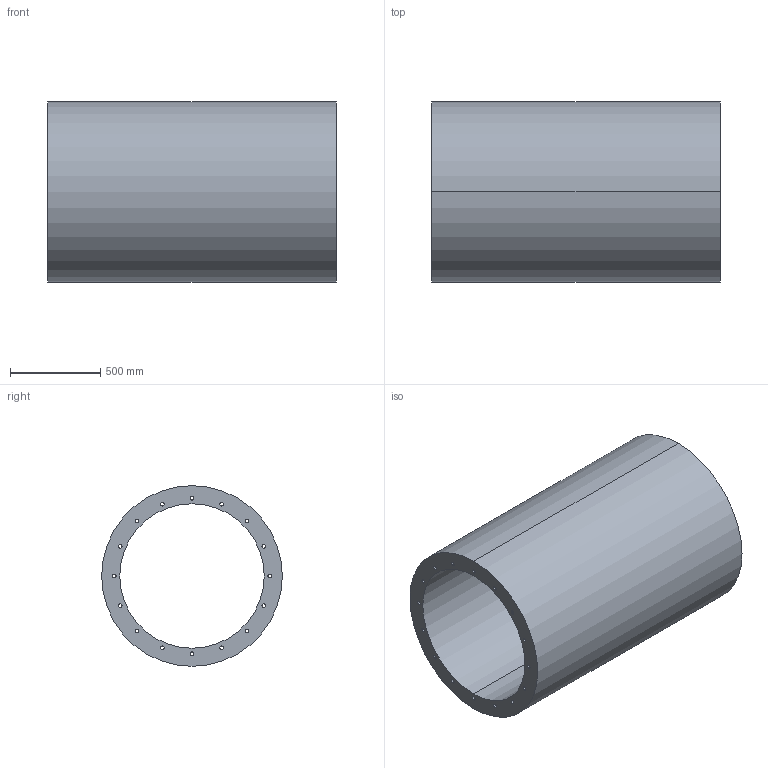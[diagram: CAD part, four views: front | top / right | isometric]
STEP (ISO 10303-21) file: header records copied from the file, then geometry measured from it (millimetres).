
FILE_DESCRIPTION(('STEP AP214'),'1');
FILE_NAME('accessory_5211812100.stp','2017-10-09T11:38:18',('TraceParts'),('TraceParts S.A.'),'Spatial InterOp 3D',' ',' ');
FILE_SCHEMA(('automotive_design'));
Length unit declared in the file: millimetre
Products named in the file (1): accessory_5211812100
Bounding box: 1600 x 1000 x 1000 mm (x, y, z)
Volume: 444346864.9 mm3; surface area: 11211715.9 mm2
Topology: 1 solids, 1 shells, 38 faces, 108 edges, 72 vertices
Faces by surface type: cylinder 36, plane 2
Entity records: 1672 total; most frequent: DIRECTION 258, CARTESIAN_POINT 219, ORIENTED_EDGE 216, AXIS2_PLACEMENT_3D 111, EDGE_CURVE 108, EDGE_LOOP 72, VERTEX_POINT 72, CIRCLE 72
